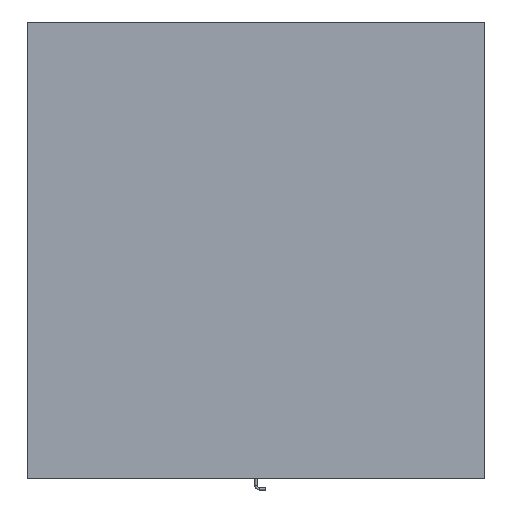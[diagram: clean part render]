
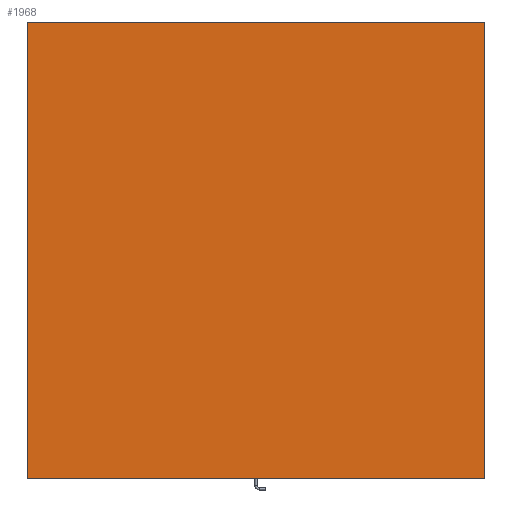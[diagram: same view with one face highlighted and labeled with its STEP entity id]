
A CAD part, top view. The second image highlights one B-rep face of the part: STEP entity #1968.
In plain terms, the highlighted planar face has unit normal (0, 0, 1).
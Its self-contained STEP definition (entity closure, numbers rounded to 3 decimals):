
#40 = VERTEX_POINT ( 'NONE', #1748 ) ;
#84 = VECTOR ( 'NONE', #1897, 1000. ) ;
#116 = VECTOR ( 'NONE', #572, 1000. ) ;
#153 = ORIENTED_EDGE ( 'NONE', *, *, #1534, .T. ) ;
#162 = DIRECTION ( 'NONE',  ( -0.707, 0.707, 0. ) ) ;
#174 = ORIENTED_EDGE ( 'NONE', *, *, #1889, .T. ) ;
#184 = LINE ( 'NONE', #916, #1394 ) ;
#231 = CARTESIAN_POINT ( 'NONE',  ( -356.5, -357., 41. ) ) ;
#233 = VECTOR ( 'NONE', #450, 1000. ) ;
#280 = PLANE ( 'NONE',  #1151 ) ;
#328 = CARTESIAN_POINT ( 'NONE',  ( 357., 356.5, 41. ) ) ;
#380 = VERTEX_POINT ( 'NONE', #964 ) ;
#392 = LINE ( 'NONE', #903, #116 ) ;
#408 = VECTOR ( 'NONE', #1286, 1000. ) ;
#447 = VERTEX_POINT ( 'NONE', #1442 ) ;
#450 = DIRECTION ( 'NONE',  ( 0., 1., 0. ) ) ;
#511 = LINE ( 'NONE', #1958, #1833 ) ;
#527 = LINE ( 'NONE', #1891, #84 ) ;
#570 = EDGE_CURVE ( 'NONE', #1574, #900, #392, .T. ) ;
#572 = DIRECTION ( 'NONE',  ( 1., 0., 0. ) ) ;
#597 = ORIENTED_EDGE ( 'NONE', *, *, #619, .T. ) ;
#606 = EDGE_CURVE ( 'NONE', #40, #854, #1053, .T. ) ;
#619 = EDGE_CURVE ( 'NONE', #1719, #1598, #783, .T. ) ;
#631 = ORIENTED_EDGE ( 'NONE', *, *, #606, .T. ) ;
#653 = CARTESIAN_POINT ( 'NONE',  ( 356.5, -357., 41. ) ) ;
#690 = ORIENTED_EDGE ( 'NONE', *, *, #1619, .T. ) ;
#704 = VECTOR ( 'NONE', #747, 1000. ) ;
#747 = DIRECTION ( 'NONE',  ( -0.707, -0.707, 0. ) ) ;
#783 = LINE ( 'NONE', #1659, #704 ) ;
#854 = VERTEX_POINT ( 'NONE', #328 ) ;
#884 = DIRECTION ( 'NONE',  ( -1., 0., 0. ) ) ;
#886 = CARTESIAN_POINT ( 'NONE',  ( -356.5, 357., 41. ) ) ;
#900 = VERTEX_POINT ( 'NONE', #653 ) ;
#903 = CARTESIAN_POINT ( 'NONE',  ( -357., -357., 41. ) ) ;
#916 = CARTESIAN_POINT ( 'NONE',  ( -356.5, -357., 41. ) ) ;
#930 = ORIENTED_EDGE ( 'NONE', *, *, #1715, .T. ) ;
#964 = CARTESIAN_POINT ( 'NONE',  ( 356.5, 357., 41. ) ) ;
#1031 = EDGE_CURVE ( 'NONE', #900, #40, #511, .T. ) ;
#1053 = LINE ( 'NONE', #1637, #233 ) ;
#1068 = DIRECTION ( 'NONE',  ( 0.707, 0.707, 0. ) ) ;
#1081 = EDGE_LOOP ( 'NONE', ( #690, #930, #1445, #1246, #631, #174, #153, #597 ) ) ;
#1151 = AXIS2_PLACEMENT_3D ( 'NONE', #1498, #1484, #884 ) ;
#1208 = LINE ( 'NONE', #1431, #408 ) ;
#1246 = ORIENTED_EDGE ( 'NONE', *, *, #1031, .T. ) ;
#1286 = DIRECTION ( 'NONE',  ( 0., -1., 0. ) ) ;
#1293 = LINE ( 'NONE', #1535, #1433 ) ;
#1394 = VECTOR ( 'NONE', #1664, 1000. ) ;
#1431 = CARTESIAN_POINT ( 'NONE',  ( -357., -357., 41. ) ) ;
#1433 = VECTOR ( 'NONE', #162, 1000. ) ;
#1442 = CARTESIAN_POINT ( 'NONE',  ( -357., -356.5, 41. ) ) ;
#1445 = ORIENTED_EDGE ( 'NONE', *, *, #570, .T. ) ;
#1480 = CARTESIAN_POINT ( 'NONE',  ( -357., 356.5, 41. ) ) ;
#1484 = DIRECTION ( 'NONE',  ( 0., 0., -1. ) ) ;
#1498 = CARTESIAN_POINT ( 'NONE',  ( 0., 0., 41. ) ) ;
#1534 = EDGE_CURVE ( 'NONE', #380, #1719, #527, .T. ) ;
#1535 = CARTESIAN_POINT ( 'NONE',  ( 356.5, 357., 41. ) ) ;
#1574 = VERTEX_POINT ( 'NONE', #231 ) ;
#1598 = VERTEX_POINT ( 'NONE', #1480 ) ;
#1619 = EDGE_CURVE ( 'NONE', #1598, #447, #1208, .T. ) ;
#1637 = CARTESIAN_POINT ( 'NONE',  ( 357., -357., 41. ) ) ;
#1659 = CARTESIAN_POINT ( 'NONE',  ( -357., 356.5, 41. ) ) ;
#1664 = DIRECTION ( 'NONE',  ( 0.707, -0.707, 0. ) ) ;
#1715 = EDGE_CURVE ( 'NONE', #447, #1574, #184, .T. ) ;
#1719 = VERTEX_POINT ( 'NONE', #886 ) ;
#1748 = CARTESIAN_POINT ( 'NONE',  ( 357., -356.5, 41. ) ) ;
#1829 = FACE_OUTER_BOUND ( 'NONE', #1081, .T. ) ;
#1833 = VECTOR ( 'NONE', #1068, 1000. ) ;
#1889 = EDGE_CURVE ( 'NONE', #854, #380, #1293, .T. ) ;
#1891 = CARTESIAN_POINT ( 'NONE',  ( -357., 357., 41. ) ) ;
#1897 = DIRECTION ( 'NONE',  ( -1., 0., 0. ) ) ;
#1958 = CARTESIAN_POINT ( 'NONE',  ( 357., -356.5, 41. ) ) ;
#1968 = ADVANCED_FACE ( 'NONE', ( #1829 ), #280, .F. ) ;
